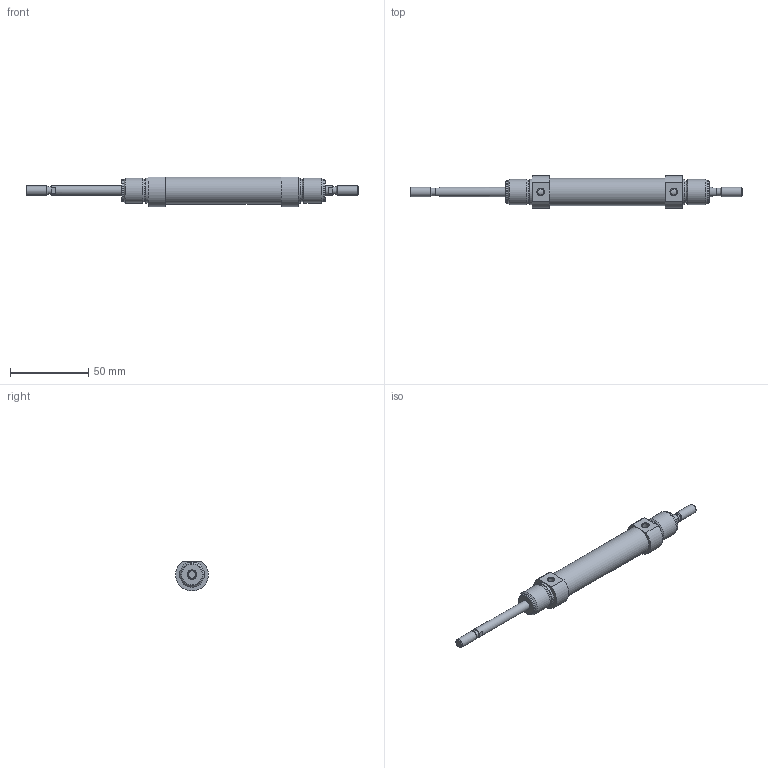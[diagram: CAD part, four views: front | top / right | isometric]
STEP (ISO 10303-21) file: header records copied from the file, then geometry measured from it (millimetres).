
FILE_DESCRIPTION( ( 'STEP AP203' ), '1' );
FILE_NAME( '//expscmdclustefs.cadenas.external/client_exchange/iodir/jobs/output/wkb68411677_no0/STEP/M101-016-0040--__0__2_03.stp', ' ', ( ' ' ), ( ' ' ), 'PSStep 15.0.47', 'PARTsolutions', ' ' );
FILE_SCHEMA( ( 'CONFIG_CONTROL_DESIGN' ) );
Length unit declared in the file: millimetre
Products named in the file (3): M101-016-0040-- [0]; HI_M101-016-0040---[0]-z; HI_M101-016-0040---[0]-k
Assembly tree (2 placements, depth 2):
  M101-016-0040-- [0]
    HI_M101-016-0040---[0]-z
    HI_M101-016-0040---[0]-k
Bounding box: 212 x 20.94 x 19.09 mm (x, y, z)
Volume: 26377.5 mm3; surface area: 16888.9 mm2
Topology: 2 solids, 2 shells, 67 faces, 135 edges, 82 vertices
Faces by surface type: plane 28, cylinder 23, cone 14, torus 2
Full cylindrical faces by diameter (mm): 4.134 x2, 4.773 x2, 6 x6, 14.16 x4, 16 x6, 17.3 x1
Entity records: 1730 total; most frequent: CARTESIAN_POINT 334, DIRECTION 292, ORIENTED_EDGE 196, AXIS2_PLACEMENT_3D 132, EDGE_LOOP 116, EDGE_CURVE 98, FACE_OUTER_BOUND 90, VERTEX_POINT 78
